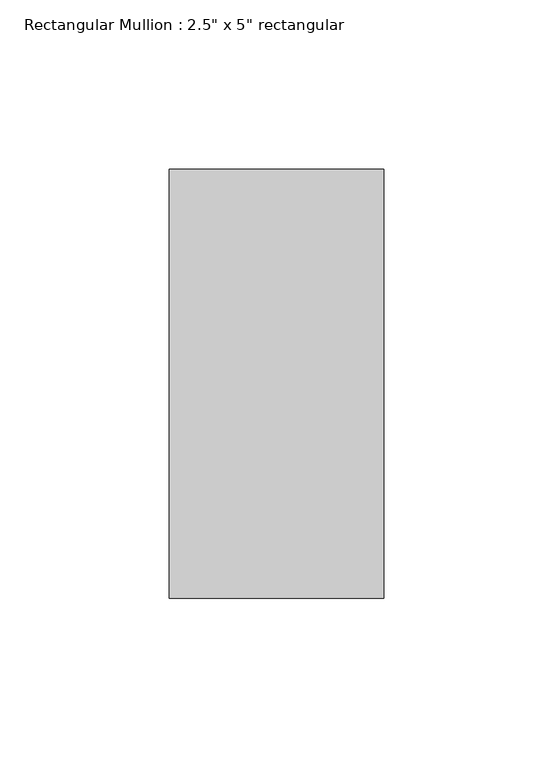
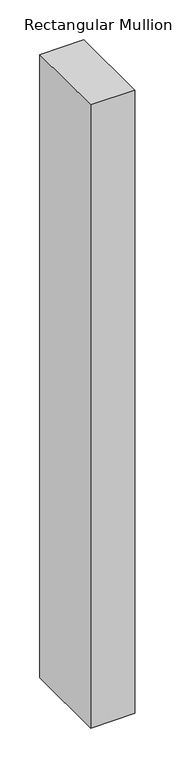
"""IFC4 building model written with IfcOpenShell, lengths in millimetres: member geometry."""

from ifc_helpers import new_model, si_unit, frame, origin, place, context, project, spatial, polyline, outline, extrude, source, transform, mapped, element, save


def member_fafc37ae(model_context):
    return source(origin(), model_context, "Body", "SweptSolid", [
        extrude(outline(polyline([(0.0, 63.5), (0.0, -63.5), (-63.5, -63.5), (-63.5, 63.5), (0.0, 63.5)])), frame((0.0, 0.0, -952.0497807), z_axis=(0.0, 0.0, 1.0), x_axis=(1.0, 0.0, 0.0)), (0.0, 0.0, 1.0), 952.0497807),
    ])


if __name__ == "__main__":
    model = new_model("IFC4")
    model_context = context("Model", 3, world=origin())
    ifc_project = project(units=[si_unit("LENGTHUNIT", "METRE", prefix="MILLI")], contexts=[model_context])
    site = spatial("IfcSite", under=ifc_project)
    building = spatial("IfcBuilding", under=site)
    placement = place(None, origin())
    member_shape = member_fafc37ae(model_context)
    element("IfcMember", 1, ObjectType="Rectangular Mullion : 2.5\" x 5\" rectangular", at=placement, inside=building, context=model_context, shape_type="MappedRepresentation", body=[
        mapped(member_shape, transform((0.0, 0.0, 0.0), x_axis=(1.0, 0.0, 0.0), y_axis=(0.0, 1.0, 0.0), z_axis=(0.0, 0.0, 1.0))),
    ])
    save(model, "model.ifc")
